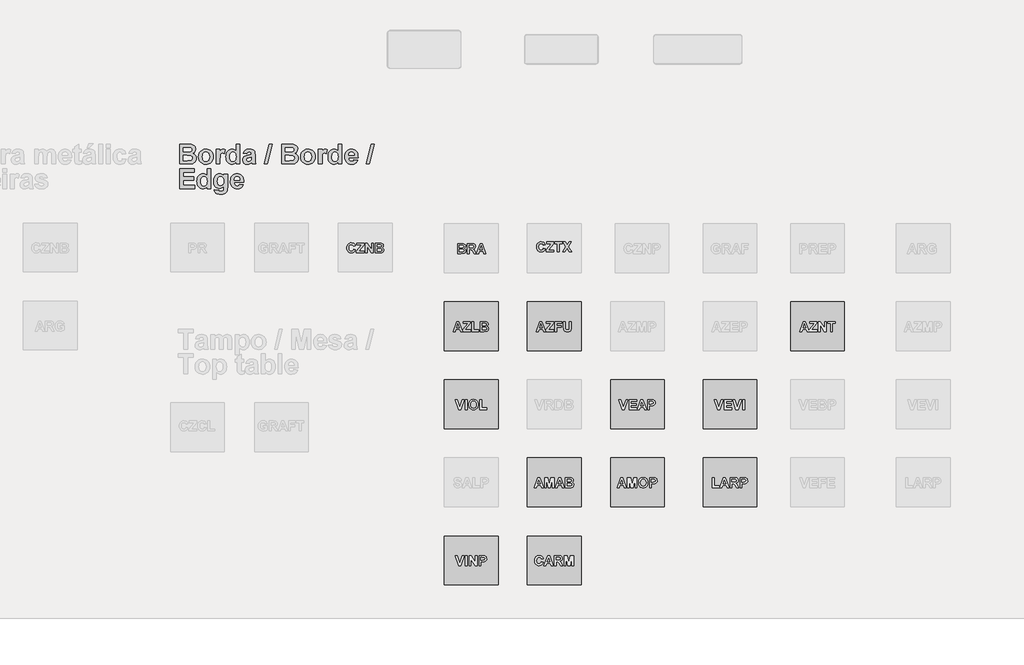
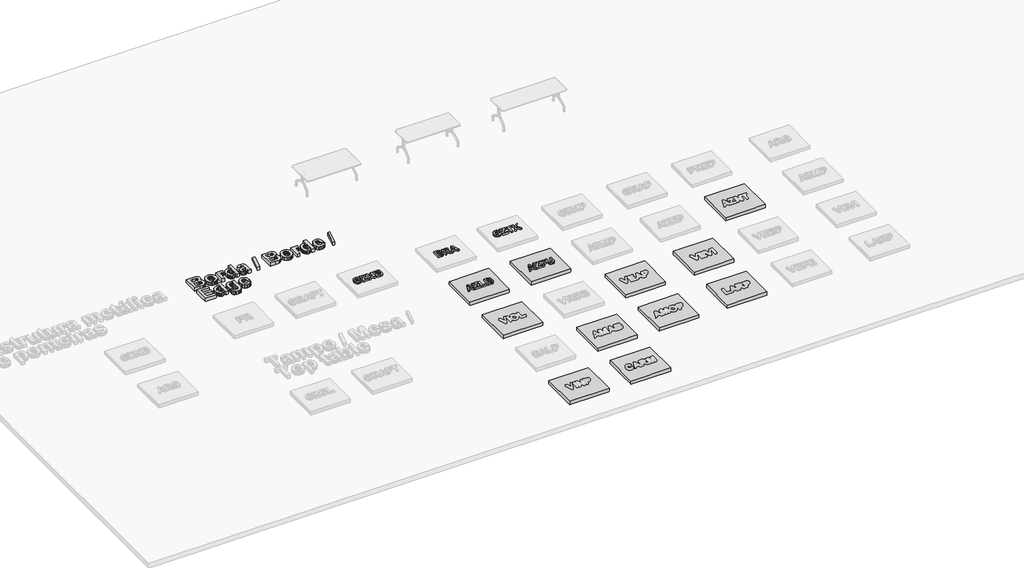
# One storey, part 5 of 11: 17 proxies.
"""IFC4 building model written with IfcOpenShell, lengths in millimetres."""

from ifc_helpers import new_model, si_unit, frame, origin, origin_with_axes, place, context, project, spatial, polyline, outline, extrude, transform, mapped, element, save
from components import generic_models_17_generic_models_1_282d7cbe, generic_models_19_generic_models_1_ea46eb77, generic_models_20_generic_models_1_5fbb363c, generic_models_23_generic_models_1_20b69050, generic_models_26_generic_models_1_b80be366, generic_models_28_generic_models_1_9fea91cb, generic_models_30_generic_models_1_937ea5b0, generic_models_31_generic_models_1_fca05ee6, generic_models_32_generic_models_1_22afaafb, generic_models_34_generic_models_1_5e9e2f8d

model = new_model("IFC4")

# Units and contexts
model_context = context("Model", 3, world=origin())
ifc_project = project(units=[si_unit("LENGTHUNIT", "METRE", prefix="MILLI")], contexts=[model_context])

# Site, building, storey
site = spatial("IfcSite", under=ifc_project)
building = spatial("IfcBuilding", under=site)
storey = spatial("IfcBuildingStorey", under=building, Name="Biblioteca BIM Revit Metadil - Refeitório", Elevation=0.0)

# Proxies
placement = place(None, origin())
element("IfcBuildingElementProxy", 1, Name="Arial 200mm", ObjectType="Arial 200mm", at=placement, inside=storey, context=model_context, shape_type="SweptSolid", body=[
    extrude(outline(polyline([(-8392.6470479, 2037.9143687), (-8353.7800232, 2024.9586938), (-8366.0398366, 1996.3334843), (-8384.3979268, 1976.1471764), (-8408.6898173, 1964.1720335), (-8438.7510317, 1960.1803192), (-8458.2130112, 1961.8851798), (-8475.8594248, 1966.9997614), (-8491.6902727, 1975.5240641), (-8505.7055548, 1987.4580879), (-8517.1746167, 2002.3495228), (-8525.3668037, 2019.746059), (-8530.2821159, 2039.6476963), (-8531.9205533, 2062.0544349), (-8530.2678824, 2085.682094), (-8525.3098696, 2106.5136553), (-8517.0465149, 2124.5491188), (-8505.4778184, 2139.7884844), (-8491.2142402, 2151.8996366), (-8474.8662408, 2160.5504596), (-8456.43382, 2165.7409533), (-8435.9169778, 2167.4711179), (-8401.807115, 2161.7650541), (-8387.409109, 2154.6324743), (-8374.7823868, 2144.6468625), (-8362.5225733, 2128.2371844), (-8353.7800232, 2105.9316621), (-8392.6470479, 2099.4538246), (-8398.5998263, 2112.8966025), (-8408.7657294, 2123.1637219), (-8422.3603317, 2129.6731894), (-8438.5992074, 2131.8430119), (-8460.556799, 2127.9019057), (-8477.9470092, 2116.0785872), (-8489.2768987, 2095.4368063), (-8493.0535286, 2065.0403131), (-8489.3907669, 2032.9800785), (-8478.4024821, 2011.6993703), (-8461.5436571, 1999.7811615), (-8440.2692749, 1995.8084253), (-8424.2075275, 1998.3451565), (-8410.5370131, 2005.9553503), (-8399.8270728, 2019.0185675), (-8392.6470479, 2037.9143687)])), frame((0.0, 0.0, 100.0), z_axis=(0.0, 0.0, 1.0), x_axis=(1.0, 0.0, 0.0)), (0.0, 0.0, 1.0), 50.0),
    extrude(outline(polyline([(-8337.5854295, 1960.1803192), (-8337.5854295, 1999.047344), (-8228.2213143, 2128.6040932), (-8324.6297546, 2128.6040932), (-8324.6297546, 2164.2321992), (-8178.8784117, 2164.2321992), (-8178.8784117, 2128.6040932), (-8290.9753647, 1995.8084253), (-8175.639493, 1995.8084253), (-8175.639493, 1960.1803192), (-8337.5854295, 1960.1803192)])), frame((0.0, 0.0, 100.0), z_axis=(0.0, 0.0, 1.0), x_axis=(1.0, 0.0, 0.0)), (0.0, 0.0, 1.0), 50.0),
    extrude(outline(polyline([(-8149.7281432, 1960.1803192), (-8149.7281432, 2164.2321992), (-8108.9886185, 2164.2321992), (-8023.4103127, 2026.8818018), (-8023.4103127, 2164.2321992), (-7984.5432879, 2164.2321992), (-7984.5432879, 1960.1803192), (-8026.5480152, 1960.1803192), (-8110.8611184, 2095.5063924), (-8110.8611184, 1960.1803192), (-8149.7281432, 1960.1803192)])), frame((0.0, 0.0, 100.0), z_axis=(0.0, 0.0, 1.0), x_axis=(1.0, 0.0, 0.0)), (0.0, 0.0, 1.0), 50.0),
    extrude(outline(polyline([(-7945.6762632, 2164.2321992), (-7861.9198491, 2164.2321992), (-7824.8494121, 2162.207875), (-7802.9867107, 2153.7310174), (-7786.9186373, 2136.5748697), (-7782.0982153, 2125.2196762), (-7780.491408, 2112.5613238), (-7782.4081899, 2098.7706152), (-7788.1585359, 2086.143893), (-7797.1984087, 2075.6047551), (-7808.9837712, 2068.0767994), (-7794.0796842, 2060.7639282), (-7783.0724213, 2049.6554491), (-7776.2782832, 2035.4978317), (-7774.0135705, 2019.0375455), (-7775.6393559, 2005.3670311), (-7780.516712, 1992.0887295), (-7788.209144, 1980.3223451), (-7798.2801569, 1971.1875821), (-7810.849945, 1964.867895), (-7826.0387026, 1961.5467381), (-7875.9382943, 1960.1803192), (-7945.6762632, 1960.1803192), (-7945.6762632, 2164.2321992)]), holes=[polyline([(-7906.8092384, 2128.6040932), (-7906.8092384, 2083.259231), (-7877.1528888, 2083.259231), (-7844.2576204, 2083.9171363), (-7826.0133985, 2090.9516629), (-7821.0221742, 2097.695193), (-7819.3584327, 2106.2859188), (-7820.7944377, 2114.5034099), (-7825.1024526, 2121.0381815), (-7842.13208, 2127.9461878), (-7880.7966724, 2128.6040932), (-7906.8092384, 2128.6040932)]), polyline([(-7906.8092384, 2047.6311249), (-7906.8092384, 1995.8084253), (-7865.715457, 1995.8084253), (-7835.2493777, 1997.0230198), (-7819.1053922, 2004.7407558), (-7814.4367945, 2011.9334328), (-7812.8805953, 2021.213694), (-7817.6883652, 2035.9912607), (-7831.5549861, 2044.8476792), (-7870.9280919, 2047.6311249), (-7906.8092384, 2047.6311249)])]), frame((0.0, 0.0, 100.0), z_axis=(0.0, 0.0, 1.0), x_axis=(1.0, 0.0, 0.0)), (0.0, 0.0, 1.0), 50.0),
])
element("IfcBuildingElementProxy", 2, Name="Arial 200mm", ObjectType="Arial 200mm", at=placement, inside=storey, context=model_context, shape_type="SweptSolid", body=[
    extrude(outline(polyline([(-4455.0703895, 348.6533221), (-4495.9111303, 348.6533221), (-4511.9032916, 393.9981843), (-4588.9794357, 393.9981843), (-4604.7691645, 348.6533221), (-4646.1665945, 348.6533221), (-4571.6714637, 552.7052021), (-4530.2740337, 552.7052021), (-4455.0703895, 348.6533221)]), holes=[polyline([(-4524.3528854, 429.6262903), (-4550.618492, 504.1214211), (-4576.5298418, 429.6262903), (-4524.3528854, 429.6262903)])]), frame((0.0, 0.0, 100.0), z_axis=(0.0, 0.0, 1.0), x_axis=(1.0, 0.0, 0.0)), (0.0, 0.0, 1.0), 50.0),
    extrude(outline(polyline([(-4451.8314707, 348.6533221), (-4451.8314707, 387.5203468), (-4342.4673555, 517.077096), (-4438.8757958, 517.077096), (-4438.8757958, 552.7052021), (-4293.124453, 552.7052021), (-4293.124453, 517.077096), (-4405.2214059, 384.2814281), (-4289.8855342, 384.2814281), (-4289.8855342, 348.6533221), (-4451.8314707, 348.6533221)])), frame((0.0, 0.0, 100.0), z_axis=(0.0, 0.0, 1.0), x_axis=(1.0, 0.0, 0.0)), (0.0, 0.0, 1.0), 50.0),
    extrude(outline(polyline([(-4263.9741844, 348.6533221), (-4263.9741844, 552.7052021), (-4124.700679, 552.7052021), (-4124.700679, 517.077096), (-4225.1071596, 517.077096), (-4225.1071596, 471.7322338), (-4137.6563539, 471.7322338), (-4137.6563539, 436.1041278), (-4225.1071596, 436.1041278), (-4225.1071596, 348.6533221), (-4263.9741844, 348.6533221)])), frame((0.0, 0.0, 100.0), z_axis=(0.0, 0.0, 1.0), x_axis=(1.0, 0.0, 0.0)), (0.0, 0.0, 1.0), 50.0),
    extrude(outline(polyline([(-4092.3114917, 552.7052021), (-4053.4444669, 552.7052021), (-4053.4444669, 442.6325734), (-4051.7743995, 408.6239267), (-4046.9033694, 397.3952534), (-4038.059603, 388.6084211), (-4025.2431003, 382.9339873), (-4008.4538615, 381.0425094), (-3991.6836006, 382.8264451), (-3979.6325456, 388.1782522), (-3971.8705274, 396.1300507), (-3967.9673773, 405.7139606), (-3965.9936612, 440.2539924), (-3965.9936612, 552.7052021), (-3927.1266365, 552.7052021), (-3927.1266365, 445.6690597), (-3930.5173795, 393.7957519), (-3935.3378015, 379.8342409), (-3943.0175815, 368.2133547), (-3953.6642616, 358.8318772), (-3967.3853841, 351.5885922), (-3984.9780267, 346.9579506), (-4007.2392669, 345.4144034), (-4033.3150931, 347.0971228), (-4052.2298724, 352.1452813), (-4065.9573209, 359.8883214), (-4076.4711548, 369.6556857), (-4088.2122352, 392.2775087), (-4092.3114917, 443.9989922), (-4092.3114917, 552.7052021)])), frame((0.0, 0.0, 100.0), z_axis=(0.0, 0.0, 1.0), x_axis=(1.0, 0.0, 0.0)), (0.0, 0.0, 1.0), 50.0),
])
element("IfcBuildingElementProxy", 3, Name="Arial 200mm", ObjectType="Arial 200mm", at=placement, inside=storey, context=model_context, shape_type="SweptSolid", body=[
    extrude(outline(polyline([(-6158.9662988, 348.6533221), (-6199.8070396, 348.6533221), (-6215.7992009, 393.9981843), (-6292.875345, 393.9981843), (-6308.6650738, 348.6533221), (-6350.0625039, 348.6533221), (-6275.5673731, 552.7052021), (-6234.169943, 552.7052021), (-6158.9662988, 348.6533221)]), holes=[polyline([(-6228.2487947, 429.6262903), (-6254.5144013, 504.1214211), (-6280.4257512, 429.6262903), (-6228.2487947, 429.6262903)])]), frame((0.0, 0.0, 100.0), z_axis=(0.0, 0.0, 1.0), x_axis=(1.0, 0.0, 0.0)), (0.0, 0.0, 1.0), 50.0),
    extrude(outline(polyline([(-6155.7273801, 348.6533221), (-6155.7273801, 387.5203468), (-6046.3632648, 517.077096), (-6142.7717051, 517.077096), (-6142.7717051, 552.7052021), (-5997.0203623, 552.7052021), (-5997.0203623, 517.077096), (-6109.1173152, 384.2814281), (-5993.7814436, 384.2814281), (-5993.7814436, 348.6533221), (-6155.7273801, 348.6533221)])), frame((0.0, 0.0, 100.0), z_axis=(0.0, 0.0, 1.0), x_axis=(1.0, 0.0, 0.0)), (0.0, 0.0, 1.0), 50.0),
    extrude(outline(polyline([(-5967.8700937, 348.6533221), (-5967.8700937, 552.7052021), (-5929.0030689, 552.7052021), (-5929.0030689, 384.2814281), (-5825.3576696, 384.2814281), (-5825.3576696, 348.6533221), (-5967.8700937, 348.6533221)])), frame((0.0, 0.0, 100.0), z_axis=(0.0, 0.0, 1.0), x_axis=(1.0, 0.0, 0.0)), (0.0, 0.0, 1.0), 50.0),
    extrude(outline(polyline([(-5796.207401, 552.7052021), (-5712.450987, 552.7052021), (-5675.38055, 550.6808779), (-5653.5178485, 542.2040203), (-5637.4497751, 525.0478726), (-5632.6293531, 513.692679), (-5631.0225458, 501.0343267), (-5632.9393278, 487.2436181), (-5638.6896737, 474.6168958), (-5647.7295465, 464.0777579), (-5659.514909, 456.5498023), (-5644.610822, 449.2369311), (-5633.6035592, 438.128452), (-5626.809421, 423.9708346), (-5624.5447083, 407.5105484), (-5626.1704937, 393.840034), (-5631.0478498, 380.5617324), (-5638.7402818, 368.7953479), (-5648.8112948, 359.660585), (-5661.3810829, 353.3408978), (-5676.5698404, 350.0197409), (-5726.4694321, 348.6533221), (-5796.207401, 348.6533221), (-5796.207401, 552.7052021)]), holes=[polyline([(-5757.3403763, 436.1041278), (-5757.3403763, 384.2814281), (-5716.2465949, 384.2814281), (-5685.7805156, 385.4960226), (-5669.63653, 393.2137587), (-5664.9679323, 400.4064356), (-5663.4117331, 409.6866969), (-5668.2195031, 424.4642636), (-5682.0861239, 433.320682), (-5721.4592297, 436.1041278), (-5757.3403763, 436.1041278)]), polyline([(-5757.3403763, 517.077096), (-5757.3403763, 471.7322338), (-5727.6840266, 471.7322338), (-5694.7887583, 472.3901392), (-5676.5445364, 479.4246658), (-5671.553312, 486.1681958), (-5669.8895705, 494.7589217), (-5671.3255755, 502.9764127), (-5675.6335905, 509.5111843), (-5692.6632179, 516.4191907), (-5731.3278102, 517.077096), (-5757.3403763, 517.077096)])]), frame((0.0, 0.0, 100.0), z_axis=(0.0, 0.0, 1.0), x_axis=(1.0, 0.0, 0.0)), (0.0, 0.0, 1.0), 50.0),
])
element("IfcBuildingElementProxy", 4, Name="Arial 200mm", ObjectType="Arial 200mm", at=placement, inside=storey, context=model_context, shape_type="SweptSolid", body=[
    extrude(outline(polyline([(-6260.9922388, 2152.7052021), (-6177.2358247, 2152.7052021), (-6140.1653877, 2150.6808779), (-6118.3026863, 2142.2040203), (-6102.2346129, 2125.0478726), (-6097.4141909, 2113.692679), (-6095.8073835, 2101.0343267), (-6097.7241655, 2087.2436181), (-6103.4745115, 2074.6168958), (-6112.5143843, 2064.0777579), (-6124.2997467, 2056.5498023), (-6109.3956598, 2049.2369311), (-6098.3883969, 2038.128452), (-6091.5942588, 2023.9708346), (-6089.3295461, 2007.5105484), (-6090.9553315, 1993.840034), (-6095.8326876, 1980.5617324), (-6103.5251196, 1968.7953479), (-6113.5961325, 1959.660585), (-6126.1659206, 1953.3408978), (-6141.3546782, 1950.0197409), (-6191.2542699, 1948.6533221), (-6260.9922388, 1948.6533221), (-6260.9922388, 2152.7052021)]), holes=[polyline([(-6222.125214, 2117.077096), (-6222.125214, 2071.7322338), (-6192.4688644, 2071.7322338), (-6159.573596, 2072.3901392), (-6141.3293741, 2079.4246658), (-6136.3381498, 2086.1681958), (-6134.6744083, 2094.7589217), (-6136.1104133, 2102.9764127), (-6140.4184282, 2109.5111843), (-6157.4480556, 2116.4191907), (-6196.112648, 2117.077096), (-6222.125214, 2117.077096)]), polyline([(-6222.125214, 2036.1041278), (-6222.125214, 1984.2814281), (-6181.0314326, 1984.2814281), (-6150.5653533, 1985.4960226), (-6134.4213678, 1993.2137587), (-6129.7527701, 2000.4064356), (-6128.1965708, 2009.6866969), (-6133.0043408, 2024.4642636), (-6146.8709616, 2033.320682), (-6186.2440675, 2036.1041278), (-6222.125214, 2036.1041278)])]), frame((0.0, 0.0, 100.0), z_axis=(0.0, 0.0, 1.0), x_axis=(1.0, 0.0, 0.0)), (0.0, 0.0, 1.0), 50.0),
    extrude(outline(polyline([(-6056.9403588, 1948.6533221), (-6056.9403588, 2152.7052021), (-5971.1090124, 2152.7052021), (-5943.1480343, 2151.3261312), (-5924.0434746, 2147.1889186), (-5910.8347592, 2139.5217907), (-5900.5613139, 2127.5529738), (-5893.9569561, 2112.4084983), (-5891.7555036, 2095.2143946), (-5894.9374882, 2074.1487708), (-5904.483442, 2057.1064914), (-5920.368061, 2044.85933), (-5942.5660411, 2038.1790601), (-5922.1709748, 2021.1747368), (-5900.5107057, 1988.2288603), (-5875.5609099, 1948.6533221), (-5920.9563802, 1948.6533221), (-5950.5115136, 1995.2633869), (-5973.7153299, 2022.9207164), (-5986.9746534, 2030.7396686), (-6009.1663075, 2032.8652091), (-6018.073334, 2032.8652091), (-6018.073334, 1948.6533221), (-6056.9403588, 1948.6533221)]), holes=[polyline([(-6018.073334, 2068.4933151), (-5986.0384035, 2068.4933151), (-5947.1460746, 2070.846592), (-5935.0001294, 2078.9438888), (-5930.6225283, 2093.2912866), (-5932.0648593, 2102.0275108), (-5936.3918523, 2108.9038871), (-5952.6876622, 2116.4191907), (-5984.2671198, 2117.077096), (-6018.073334, 2117.077096), (-6018.073334, 2068.4933151)])]), frame((0.0, 0.0, 100.0), z_axis=(0.0, 0.0, 1.0), x_axis=(1.0, 0.0, 0.0)), (0.0, 0.0, 1.0), 50.0),
    extrude(outline(polyline([(-5681.2257861, 1948.6533221), (-5722.066527, 1948.6533221), (-5738.0586882, 1993.9981843), (-5815.1348323, 1993.9981843), (-5830.9245612, 1948.6533221), (-5872.3219912, 1948.6533221), (-5797.8268604, 2152.7052021), (-5756.4294304, 2152.7052021), (-5681.2257861, 1948.6533221)]), holes=[polyline([(-5750.5082821, 2029.6262903), (-5776.7738886, 2104.1214211), (-5802.6852385, 2029.6262903), (-5750.5082821, 2029.6262903)])]), frame((0.0, 0.0, 100.0), z_axis=(0.0, 0.0, 1.0), x_axis=(1.0, 0.0, 0.0)), (0.0, 0.0, 1.0), 50.0),
])
element("IfcBuildingElementProxy", 5, Name="Arial 200mm", ObjectType="Arial 200mm", at=placement, inside=storey, context=model_context, shape_type="SweptSolid", body=[
    extrude(outline(polyline([(-4501.3497134, 2060.1273796), (-4462.4826887, 2047.1717047), (-4474.7425021, 2018.5464952), (-4493.1005923, 1998.3601873), (-4517.3924827, 1986.3850444), (-4547.4536972, 1982.3933301), (-4566.9156766, 1984.0981906), (-4584.5620903, 1989.2127722), (-4600.3929382, 1997.737075), (-4614.4082203, 2009.6710988), (-4625.8772822, 2024.5625337), (-4634.0694692, 2041.9590698), (-4638.9847814, 2061.8607072), (-4640.6232188, 2084.2674458), (-4638.9705479, 2107.8951049), (-4634.0125351, 2128.7266661), (-4625.7491804, 2146.7621296), (-4614.1804839, 2162.0014953), (-4599.9169057, 2174.1126474), (-4583.5689063, 2182.7634704), (-4565.1364855, 2187.9539642), (-4544.6196433, 2189.6841288), (-4510.5097804, 2183.9780649), (-4496.1117745, 2176.8454851), (-4483.4850523, 2166.8598734), (-4471.2252388, 2150.4501953), (-4462.4826887, 2128.1446729), (-4501.3497134, 2121.6668355), (-4507.3024918, 2135.1096134), (-4517.4683949, 2145.3767327), (-4531.0629972, 2151.8862003), (-4547.3018729, 2154.0560228), (-4569.2594645, 2150.1149166), (-4586.6496747, 2138.291598), (-4597.9795642, 2117.6498171), (-4601.756194, 2087.253324), (-4598.0934324, 2055.1930893), (-4587.1051476, 2033.9123811), (-4570.2463226, 2021.9941724), (-4548.9719404, 2018.0214361), (-4532.910193, 2020.5581674), (-4519.2396786, 2028.1683612), (-4508.5297383, 2041.2315783), (-4501.3497134, 2060.1273796)])), frame((0.0, 0.0, 100.0), z_axis=(0.0, 0.0, 1.0), x_axis=(1.0, 0.0, 0.0)), (0.0, 0.0, 1.0), 50.0),
    extrude(outline(polyline([(-4446.288095, 1982.3933301), (-4446.288095, 2021.2603548), (-4336.9239798, 2150.817104), (-4433.3324201, 2150.817104), (-4433.3324201, 2186.4452101), (-4287.5810772, 2186.4452101), (-4287.5810772, 2150.817104), (-4399.6780302, 2018.0214361), (-4284.3421585, 2018.0214361), (-4284.3421585, 1982.3933301), (-4446.288095, 1982.3933301)])), frame((0.0, 0.0, 100.0), z_axis=(0.0, 0.0, 1.0), x_axis=(1.0, 0.0, 0.0)), (0.0, 0.0, 1.0), 50.0),
    extrude(outline(polyline([(-4213.0859464, 1982.3933301), (-4213.0859464, 2150.817104), (-4271.3864836, 2150.817104), (-4271.3864836, 2186.4452101), (-4115.9183845, 2186.4452101), (-4115.9183845, 2150.817104), (-4174.2189217, 2150.817104), (-4174.2189217, 1982.3933301), (-4213.0859464, 1982.3933301)])), frame((0.0, 0.0, 100.0), z_axis=(0.0, 0.0, 1.0), x_axis=(1.0, 0.0, 0.0)), (0.0, 0.0, 1.0), 50.0),
    extrude(outline(polyline([(-4107.8210877, 1982.3933301), (-4038.2349431, 2089.3788644), (-4101.3432503, 2186.4452101), (-4055.8971718, 2186.4452101), (-4015.5119039, 2124.349065), (-3975.126636, 2186.4452101), (-3929.6805576, 2186.4452101), (-3992.7888647, 2089.3788644), (-3923.2027201, 1982.3933301), (-3968.6487985, 1982.3933301), (-4015.5119039, 2054.4592718), (-4062.3750093, 1982.3933301), (-4107.8210877, 1982.3933301)])), frame((0.0, 0.0, 100.0), z_axis=(0.0, 0.0, 1.0), x_axis=(1.0, 0.0, 0.0)), (0.0, 0.0, 1.0), 50.0),
])
element("IfcBuildingElementProxy", 6, Name="Arial 400mm", ObjectType="Arial 400mm", at=placement, inside=storey, context=model_context, shape_type="SweptSolid", body=[
    extrude(outline(polyline([(-11961.407689, 4192.8509137), (-11793.8948609, 4192.8509137), (-11719.7539869, 4188.8022653), (-11696.6007787, 4182.5395123), (-11676.028584, 4171.8485501), (-11658.3537033, 4156.8179429), (-11643.8924372, 4137.5362548), (-11634.2515932, 4114.8258676), (-11631.0379785, 4089.509163), (-11634.8715425, 4061.9277457), (-11646.3722344, 4036.6743012), (-11664.4519799, 4015.5960254), (-11688.0227049, 4000.5401141), (-11658.214531, 3985.9143717), (-11636.2000052, 3963.6974136), (-11622.611729, 3935.3821787), (-11618.0823036, 3902.4616063), (-11621.3338744, 3875.1205775), (-11631.0885866, 3848.5639743), (-11646.4734506, 3825.0312054), (-11666.6154764, 3806.7616795), (-11691.7550527, 3794.1223052), (-11722.1325678, 3787.4799914), (-11821.9317512, 3784.7471537), (-11961.407689, 3784.7471537), (-11961.407689, 4192.8509137)]), holes=[polyline([(-11883.6736395, 4121.5947017), (-11883.6736395, 4030.9049772), (-11824.3609402, 4030.9049772), (-11758.5704035, 4032.220788), (-11737.8590365, 4036.9526458), (-11722.0819597, 4046.2898412), (-11712.099511, 4059.7769012), (-11708.772028, 4076.9583529), (-11711.644038, 4093.3933351), (-11720.2600679, 4106.4628782), (-11734.5189015, 4115.6102932), (-11754.3193227, 4120.2788909), (-11831.6485074, 4121.5947017), (-11883.6736395, 4121.5947017)]), polyline([(-11883.6736395, 3959.6487652), (-11883.6736395, 3856.0033658), (-11801.4860767, 3856.0033658), (-11740.5539181, 3858.4325548), (-11722.5627367, 3863.8602741), (-11708.265947, 3873.8680269), (-11698.9287516, 3888.2533808), (-11695.8163531, 3906.8139034), (-11698.2202381, 3922.9072808), (-11705.4318931, 3936.3690368), (-11717.1729735, 3946.8702186), (-11733.1651347, 3954.0818736), (-11761.9105385, 3958.2570423), (-11811.9113463, 3959.6487652), (-11883.6736395, 3959.6487652)])]), origin_with_axes(), (0.0, 0.0, 1.0), 100.0),
    extrude(outline(polyline([(-11572.7374414, 3937.9884962), (-11567.9423234, 3976.5392203), (-11553.5569695, 4013.8500458), (-11530.3911094, 4046.201277), (-11499.2544727, 4069.8732182), (-11462.0828195, 4084.3724403), (-11420.8119097, 4089.2055144), (-11388.8244242, 4086.4663507), (-11359.8670991, 4078.2488596), (-11333.9399342, 4064.5530411), (-11311.0429296, 4045.3788953), (-11292.3337457, 4022.0169288), (-11278.970043, 3995.7576482), (-11270.9518213, 3966.6010536), (-11268.2790808, 3934.547145), (-11270.9802884, 3902.2370329), (-11279.0839112, 3872.8179087), (-11292.5899493, 3846.2897726), (-11311.4984026, 3822.6526245), (-11334.4997864, 3803.2349272), (-11360.2846159, 3789.3651433), (-11388.8528913, 3781.043273), (-11420.2046124, 3778.2693163), (-11459.8434108, 3782.8873059), (-11497.5844052, 3796.7412747), (-11529.9735925, 3819.527574), (-11553.5569695, 3850.9425553), (-11567.9423234, 3890.5687016), (-11572.7374414, 3937.9884962)]), holes=[polyline([(-11495.0033919, 3933.7374153), (-11489.6262807, 3892.175509), (-11482.9048917, 3875.5222794), (-11473.4949472, 3861.6208655), (-11462.1112865, 3850.6610477), (-11449.4687492, 3842.8326064), (-11435.5673354, 3838.1355417), (-11420.4070449, 3836.5698534), (-11405.2530804, 3838.1355417), (-11391.3706445, 3842.8326064), (-11378.7597373, 3850.6610477), (-11367.4203588, 3861.6208655), (-11358.0546963, 3875.5602354), (-11351.3649374, 3892.3273333), (-11346.0131303, 3934.3447126), (-11351.3649374, 3975.451146), (-11358.0546963, 3991.9905074), (-11367.4203588, 4005.8539652), (-11378.7597373, 4016.8137829), (-11391.3706445, 4024.6422242), (-11405.2530804, 4029.339289), (-11420.4070449, 4030.9049772), (-11435.5673354, 4029.339289), (-11449.4687492, 4024.6422242), (-11462.1112865, 4016.8137829), (-11473.4949472, 4005.8539652), (-11482.9048917, 3991.9525513), (-11489.6262807, 3975.2993217), (-11495.0033919, 3933.7374153)])]), origin_with_axes(), (0.0, 0.0, 1.0), 100.0),
    extrude(outline(polyline([(-11132.2444941, 3784.7471537), (-11209.9785436, 3784.7471537), (-11209.9785436, 4082.7276769), (-11132.2444941, 4082.7276769), (-11132.2444941, 4041.2290307), (-11115.822164, 4065.6347894), (-11101.1711175, 4079.9442311), (-11086.4441589, 4086.8901935), (-11069.7940923, 4089.2055144), (-11045.5275059, 4085.1062578), (-11022.1212573, 4072.8084883), (-11044.7936884, 3998.8194386), (-11063.5186873, 4008.3084583), (-11080.8266593, 4011.4714648), (-11095.7687023, 4009.2573602), (-11108.2056441, 4002.6150464), (-11118.2007449, 3990.2034086), (-11125.8172647, 3970.6813321), (-11130.6376868, 3934.9520098), (-11132.2444941, 3873.918635), (-11132.2444941, 3784.7471537)])), origin_with_axes(), (0.0, 0.0, 1.0), 100.0),
    extrude(outline(polyline([(-10724.1407341, 3784.7471537), (-10801.8747836, 3784.7471537), (-10801.8747836, 3827.6628269), (-10820.840171, 3805.8633856), (-10842.9179569, 3790.4658696), (-10866.6405062, 3781.3184546), (-10890.5401839, 3778.2693163), (-10914.1077458, 3780.8503296), (-10935.9230022, 3788.5933697), (-10955.9859529, 3801.4984365), (-10974.2965979, 3819.5655301), (-10989.5517786, 3842.2569392), (-11000.4483362, 3869.0349529), (-11006.9862708, 3899.899571), (-11009.1655824, 3934.8507936), (-11006.9894338, 3970.3903355), (-11000.4609883, 4001.4004519), (-10989.5802457, 4027.8811429), (-10974.347206, 4049.8324085), (-10955.7866834, 4067.0581423), (-10934.9234921, 4079.3622379), (-10911.757632, 4086.7446952), (-10886.289103, 4089.2055144), (-10862.7183781, 4086.6561311), (-10840.7924165, 4079.0079812), (-10820.5112184, 4066.2610647), (-10801.8747836, 4048.4153816), (-10801.8747836, 4192.8509137), (-10724.1407341, 4192.8509137), (-10724.1407341, 3784.7471537)]), holes=[polyline([(-10931.4315328, 3939.4055231), (-10928.1926141, 3897.0971472), (-10918.4758579, 3868.3517435), (-10908.1834345, 3854.4471666), (-10896.0311633, 3844.5153259), (-10882.0190442, 3838.5562215), (-10866.1470772, 3836.5698534), (-10841.3491057, 3842.5289578), (-10820.5997825, 3860.4062709), (-10812.4075955, 3873.7952778), (-10806.5560334, 3890.1258807), (-10801.8747836, 3931.6118749), (-10806.4168611, 3977.0453013), (-10812.0944579, 3994.210938), (-10820.0430934, 4007.675857), (-10840.7797645, 4025.0976972), (-10866.6531582, 4030.9049772), (-10891.9572108, 4025.1609573), (-10912.8077501, 4007.9288975), (-10920.9556551, 3995.0301567), (-10926.7755872, 3979.310014), (-10931.4315328, 3939.4055231)])]), origin_with_axes(), (0.0, 0.0, 1.0), 100.0),
    extrude(outline(polyline([(-10581.62831, 3992.0379525), (-10652.884522, 4004.9936274), (-10637.436398, 4042.342409), (-10626.6284045, 4056.8416311), (-10613.7644568, 4068.5574075), (-10598.1929754, 4077.5909542), (-10579.2623811, 4084.0434876), (-10531.3238535, 4089.2055144), (-10487.9780114, 4086.0804639), (-10457.3348037, 4076.7053124), (-10436.6360887, 4062.5350429), (-10423.1237246, 4045.0246386), (-10415.6843332, 4017.81013), (-10413.204536, 3974.5275481), (-10413.204536, 3882.6232291), (-10409.1052795, 3824.7275568), (-10393.7710236, 3784.7471537), (-10471.5050732, 3784.7471537), (-10478.7926403, 3809.4439091), (-10481.525478, 3819.2618815), (-10501.6421998, 3801.3592643), (-10523.1253404, 3788.5427616), (-10546.025508, 3780.8376776), (-10570.3933106, 3778.2693163), (-10591.3861853, 3779.8286785), (-10610.032109, 3784.5067652), (-10626.3310819, 3792.3035764), (-10640.2831039, 3803.2191121), (-10651.4643321, 3816.5132287), (-10659.4509237, 3831.4457828), (-10664.2428787, 3848.0167742), (-10665.840197, 3866.226203), (-10662.9934911, 3890.0626206), (-10654.4533733, 3911.1662004), (-10640.7765329, 3928.6006926), (-10622.519659, 3941.4298473), (-10597.4433429, 3951.2731238), (-10563.3081759, 3959.7499814), (-10519.1019961, 3969.7450821), (-10490.9385855, 3979.0822775), (-10490.9385855, 3987.2807906), (-10493.3551226, 4007.4734245), (-10500.6047336, 4020.8845724), (-10514.5346146, 4028.399876), (-10536.9919612, 4030.9049772), (-10553.1106427, 4028.7541328), (-10565.2312839, 4022.3015993), (-10574.391351, 4010.4339987), (-10581.62831, 3992.0379525)]), holes=[polyline([(-10490.9385855, 3920.7817404), (-10534.7652046, 3910.002214), (-10574.0370942, 3897.7044444), (-10584.5888841, 3886.6465735), (-10588.1061474, 3872.9064729), (-10585.2847456, 3859.1284163), (-10576.82054, 3847.3493798), (-10564.0040374, 3839.264735), (-10548.1257444, 3836.5698534), (-10529.0717928, 3839.7075559), (-10510.9793952, 3849.1206635), (-10500.0986526, 3859.6977575), (-10493.7726394, 3872.4003919), (-10490.9385855, 3906.7126872), (-10490.9385855, 3920.7817404)])]), origin_with_axes(), (0.0, 0.0, 1.0), 100.0),
    extrude(outline(polyline([(-10220.2864392, 3784.7471537), (-10123.1188773, 4192.8509137), (-10063.4013132, 4192.8509137), (-10160.5688751, 3784.7471537), (-10220.2864392, 3784.7471537)])), origin_with_axes(), (0.0, 0.0, 1.0), 100.0),
    extrude(outline(polyline([(-9869.0661894, 4192.8509137), (-9701.5533613, 4192.8509137), (-9627.4124873, 4188.8022653), (-9604.2592792, 4182.5395123), (-9583.6870844, 4171.8485501), (-9566.0122037, 4156.8179429), (-9551.5509376, 4137.5362548), (-9541.9100936, 4114.8258676), (-9538.6964789, 4089.509163), (-9542.5300429, 4061.9277457), (-9554.0307348, 4036.6743012), (-9572.1104804, 4015.5960254), (-9595.6812053, 4000.5401141), (-9565.8730314, 3985.9143717), (-9543.8585056, 3963.6974136), (-9530.2702294, 3935.3821787), (-9525.740804, 3902.4616063), (-9528.9923748, 3875.1205775), (-9538.747087, 3848.5639743), (-9554.131951, 3825.0312054), (-9574.2739768, 3806.7616795), (-9599.4135531, 3794.1223052), (-9629.7910682, 3787.4799914), (-9729.5902516, 3784.7471537), (-9869.0661894, 3784.7471537), (-9869.0661894, 4192.8509137)]), holes=[polyline([(-9791.3321399, 3959.6487652), (-9791.3321399, 3856.0033658), (-9709.1445771, 3856.0033658), (-9648.2124185, 3858.4325548), (-9630.2212371, 3863.8602741), (-9615.9244474, 3873.8680269), (-9606.587252, 3888.2533808), (-9603.4748535, 3906.8139034), (-9605.8787385, 3922.9072808), (-9613.0903935, 3936.3690368), (-9624.8314739, 3946.8702186), (-9640.8236351, 3954.0818736), (-9669.5690389, 3958.2570423), (-9719.5698468, 3959.6487652), (-9791.3321399, 3959.6487652)]), polyline([(-9791.3321399, 4121.5947017), (-9791.3321399, 4030.9049772), (-9732.0194406, 4030.9049772), (-9666.2289039, 4032.220788), (-9645.5175369, 4036.9526458), (-9629.7404601, 4046.2898412), (-9619.7580114, 4059.7769012), (-9616.4305284, 4076.9583529), (-9619.3025384, 4093.3933351), (-9627.9185683, 4106.4628782), (-9642.1774019, 4115.6102932), (-9661.9778231, 4120.2788909), (-9739.3070078, 4121.5947017), (-9791.3321399, 4121.5947017)])]), origin_with_axes(), (0.0, 0.0, 1.0), 100.0),
    extrude(outline(polyline([(-9480.3959418, 3937.9884962), (-9475.6008238, 3976.5392203), (-9461.2154699, 4013.8500458), (-9438.0496098, 4046.201277), (-9406.9129731, 4069.8732182), (-9369.7413199, 4084.3724403), (-9328.4704101, 4089.2055144), (-9296.4829246, 4086.4663507), (-9267.5255995, 4078.2488596), (-9241.5984346, 4064.5530411), (-9218.70143, 4045.3788953), (-9199.9922461, 4022.0169288), (-9186.6285434, 3995.7576482), (-9178.6103217, 3966.6010536), (-9175.9375812, 3934.547145), (-9178.6387888, 3902.2370329), (-9186.7424116, 3872.8179087), (-9200.2484497, 3846.2897726), (-9219.156903, 3822.6526245), (-9242.1582868, 3803.2349272), (-9267.9431163, 3789.3651433), (-9296.5113917, 3781.043273), (-9327.8631128, 3778.2693163), (-9367.5019112, 3782.8873059), (-9405.2429056, 3796.7412747), (-9437.6320929, 3819.527574), (-9461.2154699, 3850.9425553), (-9475.6008238, 3890.5687016), (-9480.3959418, 3937.9884962)]), holes=[polyline([(-9402.6618923, 3933.7374153), (-9397.2847811, 3892.175509), (-9390.5633921, 3875.5222794), (-9381.1534476, 3861.6208655), (-9369.7697869, 3850.6610477), (-9357.1272496, 3842.8326064), (-9343.2258358, 3838.1355417), (-9328.0655453, 3836.5698534), (-9312.9115808, 3838.1355417), (-9299.0291449, 3842.8326064), (-9286.4182377, 3850.6610477), (-9275.0788592, 3861.6208655), (-9265.7131967, 3875.5602354), (-9259.0234378, 3892.3273333), (-9253.6716307, 3934.3447126), (-9259.0234378, 3975.451146), (-9265.7131967, 3991.9905074), (-9275.0788592, 4005.8539652), (-9286.4182377, 4016.8137829), (-9299.0291449, 4024.6422242), (-9312.9115808, 4029.339289), (-9328.0655453, 4030.9049772), (-9343.2258358, 4029.339289), (-9357.1272496, 4024.6422242), (-9369.7697869, 4016.8137829), (-9381.1534476, 4005.8539652), (-9390.5633921, 3991.9525513), (-9397.2847811, 3975.2993217), (-9402.6618923, 3933.7374153)])]), origin_with_axes(), (0.0, 0.0, 1.0), 100.0),
    extrude(outline(polyline([(-9039.9029945, 3784.7471537), (-9117.637044, 3784.7471537), (-9117.637044, 4082.7276769), (-9039.9029945, 4082.7276769), (-9039.9029945, 4041.2290307), (-9023.4806644, 4065.6347894), (-9008.8296179, 4079.9442311), (-8994.1026593, 4086.8901935), (-8977.4525927, 4089.2055144), (-8953.1860063, 4085.1062578), (-8929.7797577, 4072.8084883), (-8952.4521888, 3998.8194386), (-8971.1771877, 4008.3084583), (-8988.4851597, 4011.4714648), (-9003.4272027, 4009.2573602), (-9015.8641445, 4002.6150464), (-9025.8592453, 3990.2034086), (-9033.4757651, 3970.6813321), (-9038.2961872, 3934.9520098), (-9039.9029945, 3873.918635), (-9039.9029945, 3784.7471537)])), origin_with_axes(), (0.0, 0.0, 1.0), 100.0),
    extrude(outline(polyline([(-8631.7992345, 3784.7471537), (-8709.533284, 3784.7471537), (-8709.533284, 3827.6628269), (-8728.4986714, 3805.8633856), (-8750.5764573, 3790.4658696), (-8774.2990066, 3781.3184546), (-8798.1986843, 3778.2693163), (-8821.7662462, 3780.8503296), (-8843.5815026, 3788.5933697), (-8863.6444533, 3801.4984365), (-8881.9550983, 3819.5655301), (-8897.210279, 3842.2569392), (-8908.1068366, 3869.0349529), (-8914.6447712, 3899.899571), (-8916.8240828, 3934.8507936), (-8914.6479342, 3970.3903355), (-8908.1194887, 4001.4004519), (-8897.2387461, 4027.8811429), (-8882.0057064, 4049.8324085), (-8863.4451838, 4067.0581423), (-8842.5819925, 4079.3622379), (-8819.4161324, 4086.7446952), (-8793.9476034, 4089.2055144), (-8770.3768785, 4086.6561311), (-8748.4509169, 4079.0079812), (-8728.1697188, 4066.2610647), (-8709.533284, 4048.4153816), (-8709.533284, 4192.8509137), (-8631.7992345, 4192.8509137), (-8631.7992345, 3784.7471537)]), holes=[polyline([(-8839.0900332, 3939.4055231), (-8835.8511145, 3897.0971472), (-8826.1343583, 3868.3517435), (-8815.8419349, 3854.4471666), (-8803.6896637, 3844.5153259), (-8789.6775446, 3838.5562215), (-8773.8055776, 3836.5698534), (-8749.0076061, 3842.5289578), (-8728.2582829, 3860.4062709), (-8720.0660959, 3873.7952778), (-8714.2145338, 3890.1258807), (-8709.533284, 3931.6118749), (-8714.0753615, 3977.0453013), (-8719.7529583, 3994.210938), (-8727.7015938, 4007.675857), (-8748.4382649, 4025.0976972), (-8774.3116586, 4030.9049772), (-8799.6157112, 4025.1609573), (-8820.4662505, 4007.9288975), (-8828.6141555, 3995.0301567), (-8834.4340876, 3979.310014), (-8839.0900332, 3939.4055231)])]), origin_with_axes(), (0.0, 0.0, 1.0), 100.0),
    extrude(outline(polyline([(-8385.641411, 3875.4368782), (-8307.9073615, 3862.4812033), (-8326.8347928, 3826.2078439), (-8339.4868191, 3811.7623929), (-8354.2643858, 3799.777761), (-8371.0979068, 3790.3678164), (-8389.9177959, 3783.6464275), (-8433.5166785, 3778.2693163), (-8468.7209417, 3781.4386489), (-8499.0288706, 3790.9466466), (-8524.4404654, 3806.7933095), (-8544.9557261, 3828.9786376), (-8557.443276, 3850.6072766), (-8566.3629545, 3874.9054931), (-8571.7147617, 3901.8732871), (-8573.4986974, 3931.5106587), (-8571.1327685, 3966.4555553), (-8564.0349817, 3997.4024116), (-8552.2053371, 4024.3512276), (-8535.6438347, 4047.3020033), (-8515.4638528, 4065.6347894), (-8492.7787697, 4078.7296366), (-8467.5885853, 4086.5865449), (-8439.8932998, 4089.2055144), (-8409.1172458, 4086.5169588), (-8381.769891, 4078.451292), (-8357.8512353, 4065.0085141), (-8337.3612787, 4046.188625), (-8321.0338388, 4021.8144963), (-8309.602733, 3991.7089998), (-8303.0679615, 3955.8721353), (-8301.4295241, 3914.3039029), (-8495.7646479, 3914.3039029), (-8490.7797495, 3881.5604589), (-8477.4445138, 3857.0155279), (-8457.7832649, 3841.681272), (-8433.8203271, 3836.5698534), (-8417.4992132, 3838.8725222), (-8403.9615451, 3845.7805286), (-8393.308539, 3857.7999535), (-8385.641411, 3875.4368782)]), holes=[polyline([(-8379.1635736, 3959.6487652), (-8383.8954314, 3990.380537), (-8396.4715455, 4012.7366675), (-8414.7410715, 4026.3628998), (-8436.5531648, 4030.9049772), (-8459.5798527, 4026.1225113), (-8478.2542435, 4011.7751135), (-8490.5014049, 3989.1279864), (-8494.4488371, 3959.6487652), (-8379.1635736, 3959.6487652)])]), origin_with_axes(), (0.0, 0.0, 1.0), 100.0),
    extrude(outline(polyline([(-8127.9449396, 3784.7471537), (-8030.7773777, 4192.8509137), (-7971.0598136, 4192.8509137), (-8068.2273755, 3784.7471537), (-8127.9449396, 3784.7471537)])), origin_with_axes(), (0.0, 0.0, 1.0), 100.0),
    extrude(outline(polyline([(-11961.407689, 3281.1017544), (-11961.407689, 3689.2055144), (-11656.9493284, 3689.2055144), (-11656.9493284, 3617.9493023), (-11883.6736395, 3617.9493023), (-11883.6736395, 3527.2595779), (-11669.9050033, 3527.2595779), (-11669.9050033, 3456.0033658), (-11883.6736395, 3456.0033658), (-11883.6736395, 3352.3579664), (-11650.4714909, 3352.3579664), (-11650.4714909, 3281.1017544), (-11961.407689, 3281.1017544)])), origin_with_axes(), (0.0, 0.0, 1.0), 100.0),
    extrude(outline(polyline([(-11320.1017804, 3281.1017544), (-11397.83583, 3281.1017544), (-11397.83583, 3324.0174276), (-11416.8012174, 3302.2179863), (-11438.8790032, 3286.8204703), (-11462.6015525, 3277.6730553), (-11486.5012302, 3274.6239169), (-11510.0687922, 3277.2049303), (-11531.8840485, 3284.9479704), (-11551.9469992, 3297.8530372), (-11570.2576442, 3315.9201307), (-11585.5128249, 3338.6115399), (-11596.4093826, 3365.3895535), (-11602.9473171, 3396.2541716), (-11605.1266287, 3431.2053943), (-11602.9504802, 3466.7449361), (-11596.4220346, 3497.7550526), (-11585.541292, 3524.2357436), (-11570.3082523, 3546.1870092), (-11551.7477298, 3563.412743), (-11530.8845384, 3575.7168385), (-11507.7186783, 3583.0992959), (-11482.2501494, 3585.560115), (-11458.6794244, 3583.0107317), (-11436.7534628, 3575.3625818), (-11416.4722647, 3562.6156653), (-11397.83583, 3544.7699822), (-11397.83583, 3689.2055144), (-11320.1017804, 3689.2055144), (-11320.1017804, 3281.1017544)]), holes=[polyline([(-11527.3925792, 3435.7601237), (-11524.1536604, 3393.4517478), (-11514.4369042, 3364.7063441), (-11504.1444808, 3350.8017672), (-11491.9922096, 3340.8699266), (-11477.9800905, 3334.9108222), (-11462.1081235, 3332.9244541), (-11437.310152, 3338.8835584), (-11416.5608289, 3356.7608716), (-11408.3686418, 3370.1498784), (-11402.5170797, 3386.4804813), (-11397.83583, 3427.9664755), (-11402.3779074, 3473.3999019), (-11408.0555042, 3490.5655386), (-11416.0041397, 3504.0304576), (-11436.7408108, 3521.4522978), (-11462.6142046, 3527.2595779), (-11487.9182571, 3521.5155579), (-11508.7687965, 3504.2834981), (-11516.9167014, 3491.3847573), (-11522.7366335, 3475.6646147), (-11527.3925792, 3435.7601237)])]), origin_with_axes(), (0.0, 0.0, 1.0), 100.0),
    extrude(outline(polyline([(-11248.8455684, 3261.668242), (-11158.1558439, 3248.7125671), (-11154.6891887, 3237.2751353), (-11148.540304, 3230.0887844), (-11135.0532439, 3224.623109), (-11115.6450356, 3222.8012172), (-11090.4928073, 3225.103886), (-11072.52693, 3232.0118924), (-11064.0753764, 3240.0838851), (-11057.9517957, 3251.9514858), (-11054.5104446, 3288.1868891), (-11054.5104446, 3331.6086433), (-11074.5575802, 3309.5118794), (-11096.2368273, 3293.7284766), (-11119.5481857, 3284.2584349), (-11144.4916555, 3281.1017544), (-11171.7377942, 3284.271087), (-11195.9854025, 3293.7790847), (-11217.2344807, 3309.6257476), (-11235.4850286, 3331.8110757), (-11246.9983725, 3353.0791319), (-11255.2221896, 3376.8016812), (-11260.1564799, 3402.9787236), (-11261.8012433, 3431.6102591), (-11259.6472358, 3466.8493153), (-11253.1852134, 3497.6664884), (-11242.415176, 3524.0617782), (-11227.3371237, 3546.0351849), (-11209.0517827, 3563.3273418), (-11188.6598793, 3575.6788825), (-11166.1614136, 3583.0898069), (-11141.5563854, 3585.560115), (-11116.302941, 3582.6311709), (-11093.3774693, 3573.8443387), (-11072.7799705, 3559.1996182), (-11054.5104446, 3538.6970096), (-11054.5104446, 3579.0822775), (-10976.7763951, 3579.0822775), (-10976.7763951, 3314.4018876), (-10978.8892834, 3268.8419409), (-10985.2279486, 3236.4147975), (-10995.3748737, 3213.3501536), (-11008.9125418, 3195.8777053), (-11026.7012908, 3182.7828581), (-11049.6014584, 3172.8510174), (-11078.4354263, 3166.5882644), (-11114.0255762, 3164.5006801), (-11148.1417651, 3166.0568793), (-11176.9061469, 3170.725477), (-11200.3187215, 3178.5064732), (-11218.3794891, 3189.3998678), (-11231.841245, 3202.6844954), (-11241.456785, 3217.6391905), (-11247.226109, 3234.2639531), (-11249.149217, 3252.5587831), (-11248.8455684, 3261.668242)]), holes=[polyline([(-11184.0671938, 3434.5455292), (-11179.5757244, 3391.7816804), (-11173.9613878, 3375.3720023), (-11166.1013164, 3362.277155), (-11146.0225507, 3345.1210074), (-11121.7180082, 3339.4022915), (-11095.6674861, 3345.2728317), (-11073.9945651, 3362.8844523), (-11065.4702623, 3376.0362336), (-11059.3814747, 3392.0094168), (-11054.5104446, 3432.4199888), (-11059.1790423, 3474.38676), (-11065.0147894, 3490.7110369), (-11073.1848354, 3503.9292414), (-11094.3263713, 3521.4269937), (-11120.4021975, 3527.2595779), (-11145.693598, 3521.540862), (-11166.1013164, 3504.3847143), (-11173.9613878, 3491.4416914), (-11179.5757244, 3475.4874863), (-11184.0671938, 3434.5455292)])]), origin_with_axes(), (0.0, 0.0, 1.0), 100.0),
    extrude(outline(polyline([(-10730.6185716, 3371.7914788), (-10652.884522, 3358.8358039), (-10671.8119534, 3322.5624445), (-10684.4639797, 3308.1169935), (-10699.2415464, 3296.1323616), (-10716.0750674, 3286.7224171), (-10734.8949565, 3280.0010281), (-10778.493839, 3274.6239169), (-10813.6981022, 3277.7932495), (-10844.0060312, 3287.3012473), (-10869.417626, 3303.1479102), (-10889.9328866, 3325.3332383), (-10902.4204366, 3346.9618772), (-10911.3401151, 3371.2600937), (-10916.6919222, 3398.2278877), (-10918.4758579, 3427.8652593), (-10916.109929, 3462.8101559), (-10909.0121422, 3493.7570122), (-10897.1824977, 3520.7058282), (-10880.6209953, 3543.6566039), (-10860.4410133, 3561.98939), (-10837.7559302, 3575.0842372), (-10812.5657458, 3582.9411456), (-10784.8704603, 3585.560115), (-10754.0944063, 3582.8715594), (-10726.7470515, 3574.8058927), (-10702.8283958, 3561.3631147), (-10682.3384393, 3542.5432256), (-10666.0109993, 3518.169097), (-10654.5798936, 3488.0636004), (-10648.045122, 3452.226736), (-10646.4066846, 3410.6585036), (-10840.7418084, 3410.6585036), (-10835.75691, 3377.9150595), (-10822.4216743, 3353.3701285), (-10802.7604255, 3338.0358727), (-10778.7974877, 3332.9244541), (-10762.4763738, 3335.2271228), (-10748.9387056, 3342.1351292), (-10738.2856995, 3354.1545542), (-10730.6185716, 3371.7914788)]), holes=[polyline([(-10724.1407341, 3456.0033658), (-10728.8725919, 3486.7351377), (-10741.4487061, 3509.0912681), (-10759.718232, 3522.7175004), (-10781.5303254, 3527.2595779), (-10804.5570132, 3522.4771119), (-10823.231404, 3508.1297141), (-10835.4785655, 3485.4825871), (-10839.4259977, 3456.0033658), (-10724.1407341, 3456.0033658)])]), origin_with_axes(), (0.0, 0.0, 1.0), 100.0),
])
generic_models_17_generic_models_1_shape = generic_models_17_generic_models_1_282d7cbe(model_context)
element("IfcBuildingElementProxy", 7, Name="Generic Models 17 : Generic Models 1", ObjectType="Generic Models 17 : Generic Models 1", at=placement, inside=storey, context=model_context, shape_type="MappedRepresentation", body=[
    mapped(generic_models_17_generic_models_1_shape, transform((-9264.2678757, 5843.0756766, 0.0), x_axis=(1.0, 0.0, 0.0), y_axis=(0.0, 1.0, 0.0), z_axis=(0.0, 0.0, 1.0))),
])
generic_models_19_generic_models_1_shape = generic_models_19_generic_models_1_ea46eb77(model_context)
element("IfcBuildingElementProxy", 8, Name="Generic Models 19 : Generic Models 1", ObjectType="Generic Models 19 : Generic Models 1", at=placement, inside=storey, context=model_context, shape_type="MappedRepresentation", body=[
    mapped(generic_models_19_generic_models_1_shape, transform((-14664.2678757, 4243.0756766, 0.0), x_axis=(1.0, 0.0, 0.0), y_axis=(0.0, 1.0, 0.0), z_axis=(0.0, 0.0, 1.0))),
])
generic_models_20_generic_models_1_shape = generic_models_20_generic_models_1_5fbb363c(model_context)
element("IfcBuildingElementProxy", 9, Name="Generic Models 20 : Generic Models 1", ObjectType="Generic Models 20 : Generic Models 1", at=placement, inside=storey, context=model_context, shape_type="MappedRepresentation", body=[
    mapped(generic_models_20_generic_models_1_shape, transform((-10872.0596943, 4243.0756766, 0.0), x_axis=(1.0, 0.0, 0.0), y_axis=(0.0, 1.0, 0.0), z_axis=(0.0, 0.0, 1.0))),
])
generic_models_23_generic_models_1_shape = generic_models_23_generic_models_1_20b69050(model_context)
element("IfcBuildingElementProxy", 10, Name="Generic Models 23 : Generic Models 1", ObjectType="Generic Models 23 : Generic Models 1", at=placement, inside=storey, context=model_context, shape_type="MappedRepresentation", body=[
    mapped(generic_models_23_generic_models_1_shape, transform((-10968.163785, 4243.0756766, 0.0), x_axis=(1.0, 0.0, 0.0), y_axis=(0.0, 1.0, 0.0), z_axis=(0.0, 0.0, 1.0))),
])
element("IfcBuildingElementProxy", 11, Name="Generic Models 25 : Generic Models 1", ObjectType="Generic Models 25 : Generic Models 1", at=placement, inside=storey, context=model_context, shape_type="MappedRepresentation", body=[
    mapped(generic_models_17_generic_models_1_shape, transform((-11160.3719664, 4243.0756766, 0.0), x_axis=(1.0, 0.0, 0.0), y_axis=(0.0, 1.0, 0.0), z_axis=(0.0, 0.0, 1.0))),
])
generic_models_26_generic_models_1_shape = generic_models_26_generic_models_1_b80be366(model_context)
element("IfcBuildingElementProxy", 12, Name="Generic Models 26 : Generic Models 1", ObjectType="Generic Models 26 : Generic Models 1", at=placement, inside=storey, context=model_context, shape_type="MappedRepresentation", body=[
    mapped(generic_models_26_generic_models_1_shape, transform((-14375.9556036, 7443.0756766, 0.0), x_axis=(1.0, 0.0, 0.0), y_axis=(0.0, 1.0, 0.0), z_axis=(0.0, 0.0, 1.0))),
])
generic_models_28_generic_models_1_shape = generic_models_28_generic_models_1_9fea91cb(model_context)
element("IfcBuildingElementProxy", 13, Name="Generic Models 28 : Generic Models 1", ObjectType="Generic Models 28 : Generic Models 1", at=placement, inside=storey, context=model_context, shape_type="MappedRepresentation", body=[
    mapped(generic_models_28_generic_models_1_shape, transform((-14568.163785, 4243.0756766, 0.0), x_axis=(1.0, 0.0, 0.0), y_axis=(0.0, 1.0, 0.0), z_axis=(0.0, 0.0, 1.0))),
])
generic_models_30_generic_models_1_shape = generic_models_30_generic_models_1_937ea5b0(model_context)
element("IfcBuildingElementProxy", 14, Name="Generic Models 30 : Generic Models 1", ObjectType="Generic Models 30 : Generic Models 1", at=placement, inside=storey, context=model_context, shape_type="MappedRepresentation", body=[
    mapped(generic_models_30_generic_models_1_shape, transform((-9072.0596943, 4243.0756766, 0.0), x_axis=(1.0, 0.0, 0.0), y_axis=(0.0, 1.0, 0.0), z_axis=(0.0, 0.0, 1.0))),
])
generic_models_31_generic_models_1_shape = generic_models_31_generic_models_1_fca05ee6(model_context)
element("IfcBuildingElementProxy", 15, Name="Generic Models 31 : Generic Models 1", ObjectType="Generic Models 31 : Generic Models 1", at=placement, inside=storey, context=model_context, shape_type="MappedRepresentation", body=[
    mapped(generic_models_31_generic_models_1_shape, transform((-12768.163785, 4243.0756766, 0.0), x_axis=(1.0, 0.0, 0.0), y_axis=(0.0, 1.0, 0.0), z_axis=(0.0, 0.0, 1.0))),
])
generic_models_32_generic_models_1_shape = generic_models_32_generic_models_1_22afaafb(model_context)
element("IfcBuildingElementProxy", 16, Name="Generic Models 32 : Generic Models 1", ObjectType="Generic Models 32 : Generic Models 1", at=placement, inside=storey, context=model_context, shape_type="MappedRepresentation", body=[
    mapped(generic_models_32_generic_models_1_shape, transform((-12768.163785, 4243.0756766, 0.0), x_axis=(1.0, 0.0, 0.0), y_axis=(0.0, 1.0, 0.0), z_axis=(0.0, 0.0, 1.0))),
])
generic_models_34_generic_models_1_shape = generic_models_34_generic_models_1_5e9e2f8d(model_context)
element("IfcBuildingElementProxy", 17, Name="Generic Models 34 : Generic Models 1", ObjectType="Generic Models 34 : Generic Models 1", at=placement, inside=storey, context=model_context, shape_type="MappedRepresentation", body=[
    mapped(generic_models_34_generic_models_1_shape, transform((-9264.2678757, 7443.0756766, 0.0), x_axis=(1.0, 0.0, 0.0), y_axis=(0.0, 1.0, 0.0), z_axis=(0.0, 0.0, 1.0))),
])

save(model, "model.ifc")
